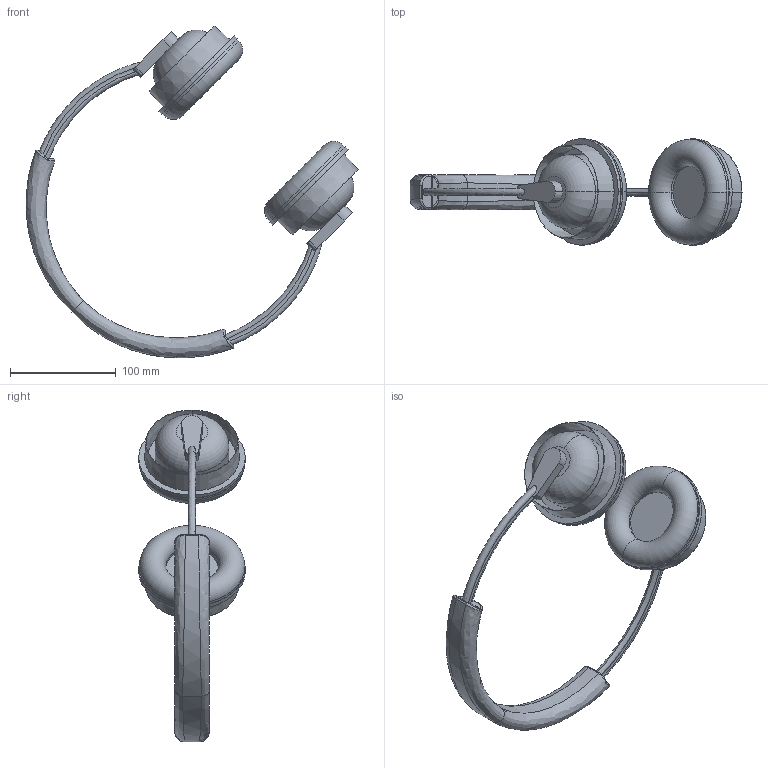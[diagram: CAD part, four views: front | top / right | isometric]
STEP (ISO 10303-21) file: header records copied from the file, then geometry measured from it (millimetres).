
FILE_DESCRIPTION (( 'STEP AP203' ), '1' );
FILE_NAME ('headphone.STEP', '2017-05-25T09:02:16', ( '' ), ( '' ), 'SwSTEP 2.0', 'SolidWorks 2016', '' );
FILE_SCHEMA (( 'CONFIG_CONTROL_DESIGN' ));
Length unit declared in the file: inch
Products named in the file (1): headphone
Bounding box: 314.6 x 101 x 314.6 mm (x, y, z)
Volume: 657225.1 mm3; surface area: 114906.1 mm2
Topology: 1 solids, 1 shells, 120 faces, 294 edges, 180 vertices
Faces by surface type: cylinder 42, bspline 34, plane 28, torus 8, cone 8
Entity records: 7228 total; most frequent: CARTESIAN_POINT 4626, ORIENTED_EDGE 580, DIRECTION 456, EDGE_CURVE 290, AXIS2_PLACEMENT_3D 191, VERTEX_POINT 180, EDGE_LOOP 128, FACE_OUTER_BOUND 120
